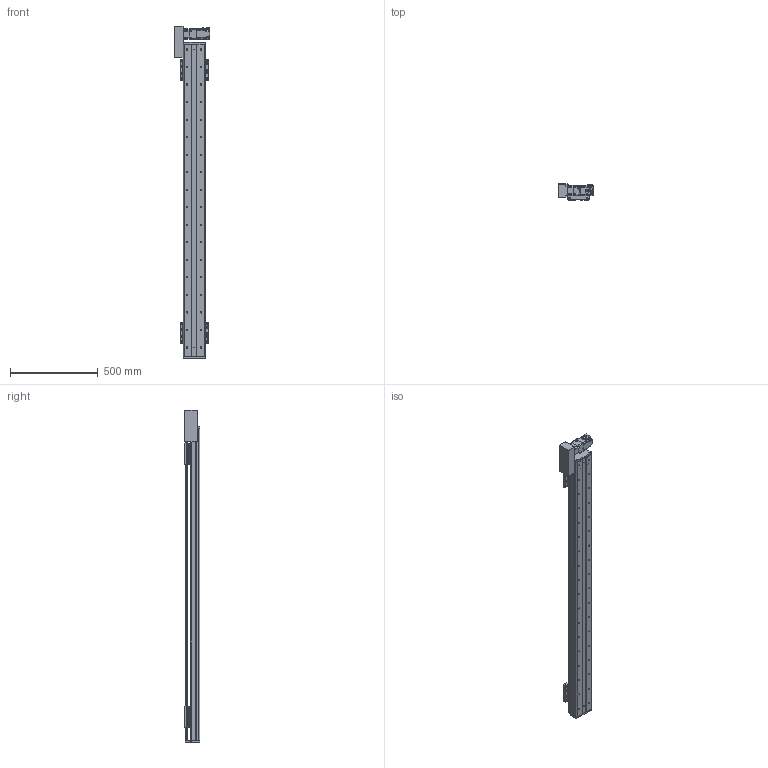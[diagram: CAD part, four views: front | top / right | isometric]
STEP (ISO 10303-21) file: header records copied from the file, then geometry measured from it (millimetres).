
FILE_DESCRIPTION(/* description */ (''),/* implementation_level */ '2;1');
FILE_NAME(/* name */ 'C:\Users\PC\Desktop\3D도면\STEP\DSB125-L2G-W1500-R.stp',/* time_stamp */ '2018-06-13T13:51:16+09:00',/* author */ ('PC'),/* organization */ (''),/* preprocessor_version */ 'ST-DEVELOPER v16.5',/* originating_system */ 'Autodesk Inventor 2017',/* authorisation */ '');
FILE_SCHEMA (('AUTOMOTIVE_DESIGN { 1 0 10303 214 3 1 1 }'));
Length unit declared in the file: millimetre
Products named in the file (12): DSB125-L-300ST; DSR125-BASE(S-TYPE); DSR125-REAR COVER-R01(170203); DSR125-REAR COVER-R01(170203)_1; DSR125-UP COVER-R01(170203); DSR125-TABLE(MSA15X); hg-kr23_; ab0601-p0401200402; 13-BELT COVER; DSR126-SENSOR DOG; pm-y65_step; SENSOR BRACKET(EE-SX674A)
Assembly tree (16 placements, depth 2):
  DSB125-L-300ST
    DSR125-BASE(S-TYPE)
    DSR125-REAR COVER-R01(170203)
    DSR125-REAR COVER-R01(170203)_1
    DSR125-UP COVER-R01(170203)
    DSR125-TABLE(MSA15X)  x2
    hg-kr23_
    ab0601-p0401200402
    13-BELT COVER
    DSR126-SENSOR DOG
    pm-y65_step  x3
    SENSOR BRACKET(EE-SX674A)  x3
Bounding box: 202.1 x 88 x 1894 mm (x, y, z)
Volume: 6222243.4 mm3; surface area: 1790297.9 mm2
Topology: 17 solids, 22 shells, 1693 faces, 4581 edges, 3018 vertices
Faces by surface type: plane 908, cylinder 647, cone 126, sphere 8, torus 4
Full cylindrical faces by diameter (mm): 2.459 x20, 3.242 x16, 3.5 x6, 4 x1, 4.134 x16, 4.2 x4, 4.3 x1, 4.5 x50, 4.917 x20, 5 x27, 5.3 x1, 5.5 x4, 5.6 x8, 5.8 x4, 5.9 x8, 6 x4, 6.6 x22, 6.647 x36, 7.5 x32, 8.5 x8, 8.7 x1, 11 x22, 14 x1, 16 x2, 17 x1, 20 x1, 47 x1, 50 x3
Entity records: 35990 total; most frequent: CARTESIAN_POINT 6595, DIRECTION 6252, ORIENTED_EDGE 5542, EDGE_CURVE 2776, AXIS2_PLACEMENT_3D 2314, VERTEX_POINT 1985, EDGE_LOOP 1737, LINE 1624
